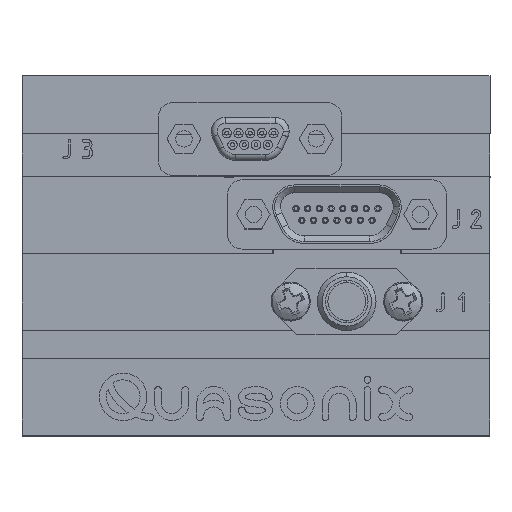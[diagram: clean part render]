
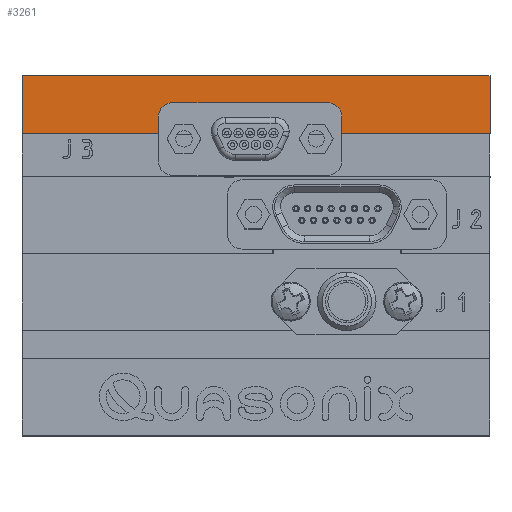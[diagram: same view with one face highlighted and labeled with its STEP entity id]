
A CAD part, top view. The second image highlights one B-rep face of the part: STEP entity #3261.
In plain terms, the highlighted planar face has unit normal (0, 0, 1).
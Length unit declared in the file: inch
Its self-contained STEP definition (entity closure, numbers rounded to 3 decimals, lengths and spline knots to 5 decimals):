
#3261 = ADVANCED_FACE ( 'NONE', ( #28560 ), #6420, .F. ) ;
#3924 = CARTESIAN_POINT ( 'NONE',  ( -1., 1.2886, 0. ) ) ;
#3933 = CARTESIAN_POINT ( 'NONE',  ( -0.375, 1.2886, 0. ) ) ;
#3959 = CARTESIAN_POINT ( 'NONE',  ( 0.195, 1.3326, 0. ) ) ;
#3964 = CARTESIAN_POINT ( 'NONE',  ( 1., 1.2886, 0. ) ) ;
#3968 = CARTESIAN_POINT ( 'NONE',  ( 0.325, 1.2886, 0. ) ) ;
#3973 = CARTESIAN_POINT ( 'NONE',  ( -1., 1.5365, 0. ) ) ;
#3974 = CARTESIAN_POINT ( 'NONE',  ( -0.375, 1.3326, 0. ) ) ;
#3976 = CARTESIAN_POINT ( 'NONE',  ( 1., 1.5365, 0. ) ) ;
#3981 = CARTESIAN_POINT ( 'NONE',  ( -0.245, 1.4176, 0. ) ) ;
#3983 = CARTESIAN_POINT ( 'NONE',  ( 0.195, 1.4176, 0. ) ) ;
#3984 = CARTESIAN_POINT ( 'NONE',  ( -0.245, 1.3326, 0. ) ) ;
#4133 = CARTESIAN_POINT ( 'NONE',  ( 0.325, 1.3326, 0. ) ) ;
#6415 = CARTESIAN_POINT ( 'NONE',  ( -1., 1.5365, 0. ) ) ;
#6420 = PLANE ( 'NONE',  #29034 ) ;
#6423 = DIRECTION ( 'NONE',  ( 0., 0., -1. ) ) ;
#6424 = DIRECTION ( 'NONE',  ( -1., 0., 0. ) ) ;
#6457 = EDGE_CURVE ( 'NONE', #21911, #21913, #37839, .T. ) ;
#6458 = EDGE_CURVE ( 'NONE', #21906, #21911, #37837, .T. ) ;
#6459 = EDGE_CURVE ( 'NONE', #21905, #21906, #37844, .T. ) ;
#6460 = EDGE_CURVE ( 'NONE', #22046, #21905, #37848, .T. ) ;
#6461 = EDGE_CURVE ( 'NONE', #22046, #21899, #37852, .T. ) ;
#6462 = EDGE_CURVE ( 'NONE', #21899, #21897, #37855, .T. ) ;
#6463 = EDGE_CURVE ( 'NONE', #21902, #21897, #37859, .T. ) ;
#6464 = EDGE_CURVE ( 'NONE', #21900, #21902, #37840, .T. ) ;
#6465 = EDGE_CURVE ( 'NONE', #21900, #21860, #37863, .T. ) ;
#6466 = EDGE_CURVE ( 'NONE', #21860, #21858, #37870, .T. ) ;
#6467 = EDGE_CURVE ( 'NONE', #21895, #21858, #37874, .T. ) ;
#6468 = EDGE_CURVE ( 'NONE', #21913, #21895, #37878, .T. ) ;
#21858 = VERTEX_POINT ( 'NONE', #3933 ) ;
#21860 = VERTEX_POINT ( 'NONE', #3924 ) ;
#21895 = VERTEX_POINT ( 'NONE', #3974 ) ;
#21897 = VERTEX_POINT ( 'NONE', #3964 ) ;
#21899 = VERTEX_POINT ( 'NONE', #3968 ) ;
#21900 = VERTEX_POINT ( 'NONE', #3973 ) ;
#21902 = VERTEX_POINT ( 'NONE', #3976 ) ;
#21905 = VERTEX_POINT ( 'NONE', #3959 ) ;
#21906 = VERTEX_POINT ( 'NONE', #3983 ) ;
#21911 = VERTEX_POINT ( 'NONE', #3981 ) ;
#21913 = VERTEX_POINT ( 'NONE', #3984 ) ;
#22046 = VERTEX_POINT ( 'NONE', #4133 ) ;
#23745 = CARTESIAN_POINT ( 'NONE',  ( -0.245, 1.4026, 0. ) ) ;
#23752 = DIRECTION ( 'NONE',  ( 0., -1., 0. ) ) ;
#23756 = CARTESIAN_POINT ( 'NONE',  ( -1., 1.5365, 0. ) ) ;
#23757 = CARTESIAN_POINT ( 'NONE',  ( -0.245, 1.4176, 0. ) ) ;
#23761 = CARTESIAN_POINT ( 'NONE',  ( -1., 1.5365, 0. ) ) ;
#23762 = DIRECTION ( 'NONE',  ( -1., 0., 0. ) ) ;
#23763 = CARTESIAN_POINT ( 'NONE',  ( 0.195, 1.4026, 0. ) ) ;
#23764 = DIRECTION ( 'NONE',  ( 0., 1., 0. ) ) ;
#23765 = CARTESIAN_POINT ( 'NONE',  ( 0.195, 1.3326, 0. ) ) ;
#23766 = DIRECTION ( 'NONE',  ( -1., 0., 0. ) ) ;
#23767 = CARTESIAN_POINT ( 'NONE',  ( 0.325, 1.3326, 0. ) ) ;
#23768 = DIRECTION ( 'NONE',  ( 0., -1., 0. ) ) ;
#23769 = CARTESIAN_POINT ( 'NONE',  ( -1., 1.2886, 0. ) ) ;
#23770 = DIRECTION ( 'NONE',  ( 1., 0., 0. ) ) ;
#23771 = CARTESIAN_POINT ( 'NONE',  ( 1., 1.5365, 0. ) ) ;
#23772 = DIRECTION ( 'NONE',  ( 0., -1., 0. ) ) ;
#23773 = DIRECTION ( 'NONE',  ( 1., 0., 0. ) ) ;
#23774 = DIRECTION ( 'NONE',  ( 0., -1., 0. ) ) ;
#23775 = CARTESIAN_POINT ( 'NONE',  ( -1., 1.2886, 0. ) ) ;
#23776 = DIRECTION ( 'NONE',  ( 1., 0., 0. ) ) ;
#23777 = CARTESIAN_POINT ( 'NONE',  ( -0.375, 1.3326, 0. ) ) ;
#23778 = DIRECTION ( 'NONE',  ( 0., -1., 0. ) ) ;
#23779 = CARTESIAN_POINT ( 'NONE',  ( -0.245, 1.3326, 0. ) ) ;
#23780 = DIRECTION ( 'NONE',  ( -1., 0., 0. ) ) ;
#25533 = ORIENTED_EDGE ( 'NONE', *, *, #6457, .F. ) ;
#25534 = ORIENTED_EDGE ( 'NONE', *, *, #6458, .F. ) ;
#25535 = ORIENTED_EDGE ( 'NONE', *, *, #6459, .F. ) ;
#25536 = ORIENTED_EDGE ( 'NONE', *, *, #6460, .F. ) ;
#25537 = ORIENTED_EDGE ( 'NONE', *, *, #6461, .T. ) ;
#25538 = ORIENTED_EDGE ( 'NONE', *, *, #6462, .T. ) ;
#25539 = ORIENTED_EDGE ( 'NONE', *, *, #6463, .F. ) ;
#25540 = ORIENTED_EDGE ( 'NONE', *, *, #6464, .F. ) ;
#25541 = ORIENTED_EDGE ( 'NONE', *, *, #6465, .T. ) ;
#25542 = ORIENTED_EDGE ( 'NONE', *, *, #6466, .T. ) ;
#25543 = ORIENTED_EDGE ( 'NONE', *, *, #6467, .F. ) ;
#25544 = ORIENTED_EDGE ( 'NONE', *, *, #6468, .F. ) ;
#27034 = EDGE_LOOP ( 'NONE', ( #25533, #25534, #25535, #25536, #25537, #25538, #25539, #25540, #25541, #25542, #25543, #25544 ) ) ;
#28560 = FACE_OUTER_BOUND ( 'NONE', #27034, .T. ) ;
#29034 = AXIS2_PLACEMENT_3D ( 'NONE', #6415, #6423, #6424 ) ;
#37837 = LINE ( 'NONE', #23757, #37846 ) ;
#37839 = LINE ( 'NONE', #23745, #37842 ) ;
#37840 = LINE ( 'NONE', #23756, #37869 ) ;
#37842 = VECTOR ( 'NONE', #23752, 39.37008 ) ;
#37844 = LINE ( 'NONE', #23763, #37850 ) ;
#37846 = VECTOR ( 'NONE', #23762, 39.37008 ) ;
#37848 = LINE ( 'NONE', #23765, #37854 ) ;
#37850 = VECTOR ( 'NONE', #23764, 39.37008 ) ;
#37852 = LINE ( 'NONE', #23767, #37857 ) ;
#37854 = VECTOR ( 'NONE', #23766, 39.37008 ) ;
#37855 = LINE ( 'NONE', #23769, #37861 ) ;
#37857 = VECTOR ( 'NONE', #23768, 39.37008 ) ;
#37859 = LINE ( 'NONE', #23771, #37865 ) ;
#37861 = VECTOR ( 'NONE', #23770, 39.37008 ) ;
#37863 = LINE ( 'NONE', #23761, #37872 ) ;
#37865 = VECTOR ( 'NONE', #23772, 39.37008 ) ;
#37869 = VECTOR ( 'NONE', #23773, 39.37008 ) ;
#37870 = LINE ( 'NONE', #23775, #37876 ) ;
#37872 = VECTOR ( 'NONE', #23774, 39.37008 ) ;
#37874 = LINE ( 'NONE', #23777, #37880 ) ;
#37876 = VECTOR ( 'NONE', #23776, 39.37008 ) ;
#37878 = LINE ( 'NONE', #23779, #37884 ) ;
#37880 = VECTOR ( 'NONE', #23778, 39.37008 ) ;
#37884 = VECTOR ( 'NONE', #23780, 39.37008 ) ;
